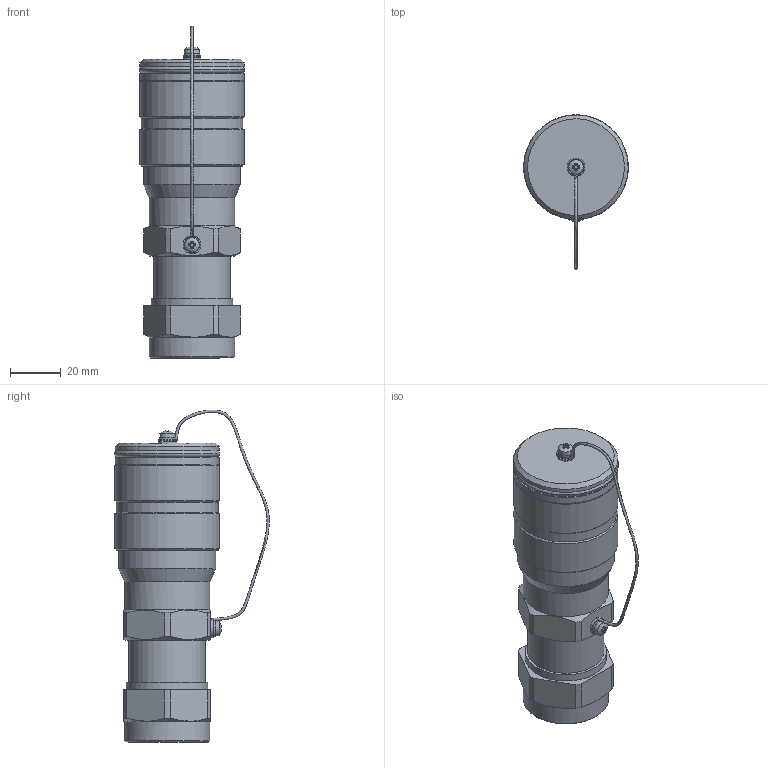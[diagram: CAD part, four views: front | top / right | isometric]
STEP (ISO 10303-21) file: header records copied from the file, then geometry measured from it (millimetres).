
FILE_DESCRIPTION (( 'STEP AP203' ), '1' );
FILE_NAME ('ﾂﾃﾌﾊ-24DC-7-ﾍ_ﾌ2.STEP', '2021-10-06T10:12:05', ( '' ), ( '' ), 'SwSTEP 2.0', 'SolidWorks 2018', '' );
FILE_SCHEMA (( 'CONFIG_CONTROL_DESIGN' ));
Length unit declared in the file: millimetre
Products named in the file (1): ﾂﾃﾌﾊ-24DC-7-ﾍ_ﾌ2
Bounding box: 41.2 x 60.68 x 130.38 mm (x, y, z)
Volume: 123712.3 mm3; surface area: 18008.1 mm2
Topology: 1 solids, 3 shells, 152 faces, 407 edges, 267 vertices
Faces by surface type: plane 70, cone 38, cylinder 35, torus 6, sphere 2, bspline 1
Full cylindrical faces by diameter (mm): 2.75 x2, 3 x1, 7 x1, 30 x1, 32 x1, 33.5 x2, 36 x2, 38 x1, 40 x1, 41 x4
Entity records: 4801 total; most frequent: CARTESIAN_POINT 1335, DIRECTION 702, ORIENTED_EDGE 686, EDGE_CURVE 343, AXIS2_PLACEMENT_3D 298, VERTEX_POINT 243, EDGE_LOOP 208, FACE_OUTER_BOUND 175
